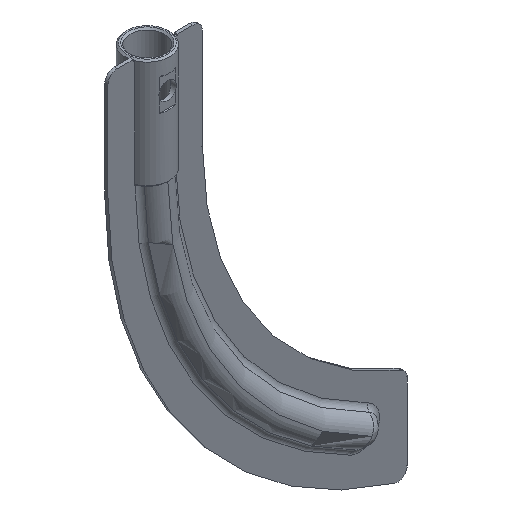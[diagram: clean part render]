
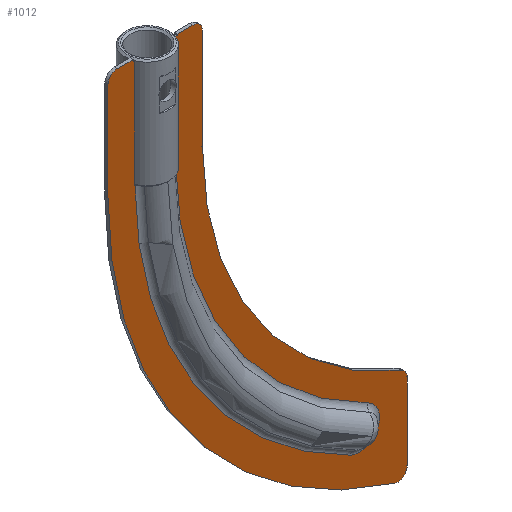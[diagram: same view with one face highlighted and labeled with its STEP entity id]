
A CAD part, isometric view. The second image highlights one B-rep face of the part: STEP entity #1012.
In plain terms, the highlighted planar face has unit normal (0, -1, 0).
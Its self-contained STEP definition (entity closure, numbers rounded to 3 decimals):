
#49=PLANE('',#1150);
#52=(
BOUNDED_CURVE()
B_SPLINE_CURVE(2,(#1496,#1497,#1498),.UNSPECIFIED.,.F.,.F.)
B_SPLINE_CURVE_WITH_KNOTS((3,3),(0.,0.073),.UNSPECIFIED.)
CURVE()
GEOMETRIC_REPRESENTATION_ITEM()
RATIONAL_B_SPLINE_CURVE((1.,1.001,1.))
REPRESENTATION_ITEM('')
);
#53=(
BOUNDED_CURVE()
B_SPLINE_CURVE(2,(#1521,#1522,#1523),.UNSPECIFIED.,.F.,.F.)
B_SPLINE_CURVE_WITH_KNOTS((3,3),(0.,0.073),.UNSPECIFIED.)
CURVE()
GEOMETRIC_REPRESENTATION_ITEM()
RATIONAL_B_SPLINE_CURVE((1.,1.001,1.))
REPRESENTATION_ITEM('')
);
#139=FACE_OUTER_BOUND('',#193,.T.);
#193=EDGE_LOOP('',(#876,#877,#878,#879,#880,#881,#882,#883,#884,#885,#886,
#887,#888,#889,#890,#891,#892,#893,#894,#895,#896,#897,#898,#899));
#238=CIRCLE('',#1108,108.574);
#241=CIRCLE('',#1112,6.426);
#243=CIRCLE('',#1115,121.426);
#249=CIRCLE('',#1124,3.);
#251=CIRCLE('',#1128,3.);
#253=CIRCLE('',#1132,3.);
#255=CIRCLE('',#1136,3.);
#256=CIRCLE('',#1141,130.);
#259=CIRCLE('',#1145,100.);
#262=LINE('',#1449,#313);
#263=LINE('',#1453,#314);
#275=LINE('',#1673,#326);
#279=LINE('',#1756,#330);
#280=LINE('',#1759,#331);
#283=LINE('',#1866,#334);
#287=LINE('',#1879,#338);
#292=LINE('',#1894,#343);
#298=LINE('',#1909,#349);
#300=LINE('',#1914,#351);
#304=LINE('',#1921,#355);
#305=LINE('',#1929,#356);
#309=LINE('',#1935,#360);
#313=VECTOR('',#1165,10.);
#314=VECTOR('',#1168,10.);
#326=VECTOR('',#1270,10.);
#330=VECTOR('',#1278,10.);
#331=VECTOR('',#1281,10.);
#334=VECTOR('',#1356,10.);
#338=VECTOR('',#1368,10.);
#343=VECTOR('',#1381,10.);
#349=VECTOR('',#1395,10.);
#351=VECTOR('',#1399,10.);
#355=VECTOR('',#1405,10.);
#356=VECTOR('',#1420,10.);
#360=VECTOR('',#1428,10.);
#367=VERTEX_POINT('',#1447);
#368=VERTEX_POINT('',#1448);
#369=VERTEX_POINT('',#1450);
#370=VERTEX_POINT('',#1452);
#382=VERTEX_POINT('',#1495);
#390=VERTEX_POINT('',#1519);
#407=VERTEX_POINT('',#1668);
#414=VERTEX_POINT('',#1750);
#416=VERTEX_POINT('',#1754);
#417=VERTEX_POINT('',#1758);
#428=VERTEX_POINT('',#1822);
#430=VERTEX_POINT('',#1828);
#434=VERTEX_POINT('',#1860);
#435=VERTEX_POINT('',#1862);
#438=VERTEX_POINT('',#1872);
#439=VERTEX_POINT('',#1874);
#440=VERTEX_POINT('',#1878);
#444=VERTEX_POINT('',#1887);
#445=VERTEX_POINT('',#1889);
#446=VERTEX_POINT('',#1893);
#449=VERTEX_POINT('',#1901);
#451=VERTEX_POINT('',#1907);
#452=VERTEX_POINT('',#1911);
#455=VERTEX_POINT('',#1919);
#461=EDGE_CURVE('',#367,#368,#262,.T.);
#463=EDGE_CURVE('',#369,#370,#263,.T.);
#477=EDGE_CURVE('',#368,#382,#52,.T.);
#486=EDGE_CURVE('',#390,#369,#53,.T.);
#521=EDGE_CURVE('',#407,#390,#275,.T.);
#533=EDGE_CURVE('',#416,#414,#279,.T.);
#534=EDGE_CURVE('',#417,#382,#280,.T.);
#552=EDGE_CURVE('',#428,#407,#238,.T.);
#555=EDGE_CURVE('',#430,#428,#241,.T.);
#557=EDGE_CURVE('',#417,#430,#243,.T.);
#564=EDGE_CURVE('',#434,#435,#249,.T.);
#566=EDGE_CURVE('',#435,#416,#283,.T.);
#570=EDGE_CURVE('',#438,#439,#251,.T.);
#572=EDGE_CURVE('',#439,#440,#287,.T.);
#577=EDGE_CURVE('',#444,#445,#253,.T.);
#579=EDGE_CURVE('',#445,#446,#292,.T.);
#583=EDGE_CURVE('',#446,#449,#255,.T.);
#587=EDGE_CURVE('',#451,#438,#298,.T.);
#589=EDGE_CURVE('',#452,#451,#300,.T.);
#593=EDGE_CURVE('',#455,#434,#304,.T.);
#594=EDGE_CURVE('',#449,#455,#256,.T.);
#597=EDGE_CURVE('',#440,#444,#259,.T.);
#598=EDGE_CURVE('',#370,#452,#305,.T.);
#602=EDGE_CURVE('',#414,#367,#309,.T.);
#876=ORIENTED_EDGE('',*,*,#602,.F.);
#877=ORIENTED_EDGE('',*,*,#533,.F.);
#878=ORIENTED_EDGE('',*,*,#566,.F.);
#879=ORIENTED_EDGE('',*,*,#564,.F.);
#880=ORIENTED_EDGE('',*,*,#593,.F.);
#881=ORIENTED_EDGE('',*,*,#594,.F.);
#882=ORIENTED_EDGE('',*,*,#583,.F.);
#883=ORIENTED_EDGE('',*,*,#579,.F.);
#884=ORIENTED_EDGE('',*,*,#577,.F.);
#885=ORIENTED_EDGE('',*,*,#597,.F.);
#886=ORIENTED_EDGE('',*,*,#572,.F.);
#887=ORIENTED_EDGE('',*,*,#570,.F.);
#888=ORIENTED_EDGE('',*,*,#587,.F.);
#889=ORIENTED_EDGE('',*,*,#589,.F.);
#890=ORIENTED_EDGE('',*,*,#598,.F.);
#891=ORIENTED_EDGE('',*,*,#463,.F.);
#892=ORIENTED_EDGE('',*,*,#486,.F.);
#893=ORIENTED_EDGE('',*,*,#521,.F.);
#894=ORIENTED_EDGE('',*,*,#552,.F.);
#895=ORIENTED_EDGE('',*,*,#555,.F.);
#896=ORIENTED_EDGE('',*,*,#557,.F.);
#897=ORIENTED_EDGE('',*,*,#534,.T.);
#898=ORIENTED_EDGE('',*,*,#477,.F.);
#899=ORIENTED_EDGE('',*,*,#461,.F.);
#1012=ADVANCED_FACE('',(#139),#49,.T.);
#1108=AXIS2_PLACEMENT_3D('',#1824,#1318,#1319);
#1112=AXIS2_PLACEMENT_3D('',#1830,#1326,#1327);
#1115=AXIS2_PLACEMENT_3D('',#1833,#1332,#1333);
#1124=AXIS2_PLACEMENT_3D('',#1863,#1351,#1352);
#1128=AXIS2_PLACEMENT_3D('',#1875,#1363,#1364);
#1132=AXIS2_PLACEMENT_3D('',#1890,#1376,#1377);
#1136=AXIS2_PLACEMENT_3D('',#1902,#1388,#1389);
#1141=AXIS2_PLACEMENT_3D('',#1923,#1408,#1409);
#1145=AXIS2_PLACEMENT_3D('',#1927,#1416,#1417);
#1150=AXIS2_PLACEMENT_3D('',#1938,#1432,#1433);
#1165=DIRECTION('',(0.,0.,-1.));
#1168=DIRECTION('',(0.,0.,1.));
#1270=DIRECTION('',(-1.,0.,0.));
#1278=DIRECTION('',(0.,0.,-1.));
#1281=DIRECTION('',(1.,0.,0.));
#1318=DIRECTION('center_axis',(0.,1.,0.));
#1319=DIRECTION('ref_axis',(-0.845,0.,-0.535));
#1326=DIRECTION('center_axis',(0.,-1.,0.));
#1327=DIRECTION('ref_axis',(0.9,0.,-0.437));
#1332=DIRECTION('center_axis',(0.,-1.,0.));
#1333=DIRECTION('ref_axis',(-0.845,0.,-0.534));
#1351=DIRECTION('center_axis',(0.,1.,0.));
#1352=DIRECTION('ref_axis',(-0.707,0.,0.707));
#1356=DIRECTION('',(1.,0.,0.));
#1363=DIRECTION('center_axis',(0.,1.,0.));
#1364=DIRECTION('ref_axis',(0.707,0.,0.707));
#1368=DIRECTION('',(0.,0.,-1.));
#1376=DIRECTION('center_axis',(0.,1.,0.));
#1377=DIRECTION('ref_axis',(0.827,0.,0.562));
#1381=DIRECTION('',(0.,0.,-1.));
#1388=DIRECTION('center_axis',(0.,1.,0.));
#1389=DIRECTION('ref_axis',(0.592,0.,-0.806));
#1395=DIRECTION('',(1.,0.,0.));
#1399=DIRECTION('',(0.,0.,1.));
#1405=DIRECTION('',(0.,0.,1.));
#1408=DIRECTION('center_axis',(0.,1.,0.));
#1409=DIRECTION('ref_axis',(-0.269,0.,-0.963));
#1416=DIRECTION('center_axis',(0.,-1.,0.));
#1417=DIRECTION('ref_axis',(0.35,0.,0.937));
#1420=DIRECTION('',(1.,0.,0.));
#1428=DIRECTION('',(1.,0.,0.));
#1432=DIRECTION('center_axis',(0.,-1.,0.));
#1433=DIRECTION('ref_axis',(0.,0.,-1.));
#1447=CARTESIAN_POINT('',(-86.538,0.,128.175));
#1448=CARTESIAN_POINT('',(-86.538,0.,94.175));
#1449=CARTESIAN_POINT('',(-86.538,0.,111.175));
#1450=CARTESIAN_POINT('',(-73.462,0.,94.175));
#1452=CARTESIAN_POINT('',(-73.462,0.,128.175));
#1453=CARTESIAN_POINT('',(-73.462,0.,111.175));
#1495=CARTESIAN_POINT('',(-86.,0.,93.675));
#1496=CARTESIAN_POINT('Ctrl Pts',(-86.538,0.,
94.175));
#1497=CARTESIAN_POINT('Ctrl Pts',(-86.259,0.,
93.914));
#1498=CARTESIAN_POINT('Ctrl Pts',(-86.,0.,
93.675));
#1519=CARTESIAN_POINT('',(-74.001,0.,93.675));
#1521=CARTESIAN_POINT('Ctrl Pts',(-74.001,0.,
93.675));
#1522=CARTESIAN_POINT('Ctrl Pts',(-73.742,0.,
93.914));
#1523=CARTESIAN_POINT('Ctrl Pts',(-73.462,0.,
94.175));
#1668=CARTESIAN_POINT('',(-73.57,0.,93.675));
#1673=CARTESIAN_POINT('',(-73.,0.,93.675));
#1750=CARTESIAN_POINT('',(-87.,0.,128.175));
#1754=CARTESIAN_POINT('',(-87.,0.,128.675));
#1756=CARTESIAN_POINT('',(-87.,0.,128.675));
#1758=CARTESIAN_POINT('',(-86.421,0.,93.675));
#1759=CARTESIAN_POINT('',(-87.,0.,93.675));
#1822=CARTESIAN_POINT('',(-12.407,0.,-3.003));
#1824=CARTESIAN_POINT('Origin',(35.,0.,94.675));
#1828=CARTESIAN_POINT('',(-18.018,0.,-14.564));
#1830=CARTESIAN_POINT('Origin',(-15.213,0.,-8.784));
#1833=CARTESIAN_POINT('Origin',(35.,0.,94.675));
#1860=CARTESIAN_POINT('',(-95.,0.,125.675));
#1862=CARTESIAN_POINT('',(-92.,0.,128.675));
#1863=CARTESIAN_POINT('Origin',(-92.,0.,125.675));
#1866=CARTESIAN_POINT('',(-95.,0.,128.675));
#1872=CARTESIAN_POINT('',(-68.,0.,128.675));
#1874=CARTESIAN_POINT('',(-65.,0.,125.675));
#1875=CARTESIAN_POINT('Origin',(-68.,0.,125.675));
#1878=CARTESIAN_POINT('',(-65.,0.,93.675));
#1879=CARTESIAN_POINT('',(-65.,0.,128.675));
#1887=CARTESIAN_POINT('',(-1.893,0.,0.729));
#1889=CARTESIAN_POINT('',(0.,0.,-2.059));
#1890=CARTESIAN_POINT('Origin',(-3.,0.,-2.059));
#1893=CARTESIAN_POINT('',(0.,0.,-26.507));
#1894=CARTESIAN_POINT('',(0.,0.,0.));
#1901=CARTESIAN_POINT('',(-3.898,0.,-29.369));
#1902=CARTESIAN_POINT('Origin',(-3.,0.,-26.507));
#1907=CARTESIAN_POINT('',(-73.,0.,128.675));
#1909=CARTESIAN_POINT('',(-73.,0.,128.675));
#1911=CARTESIAN_POINT('',(-73.,0.,128.175));
#1914=CARTESIAN_POINT('',(-73.,0.,93.675));
#1919=CARTESIAN_POINT('',(-95.,0.,94.675));
#1921=CARTESIAN_POINT('',(-95.,0.,94.675));
#1923=CARTESIAN_POINT('Origin',(35.,0.,94.675));
#1927=CARTESIAN_POINT('Origin',(35.,0.,93.675));
#1929=CARTESIAN_POINT('',(-76.5,0.,128.175));
#1935=CARTESIAN_POINT('',(-83.5,0.,128.175));
#1938=CARTESIAN_POINT('Origin',(-87.,0.,93.675));
